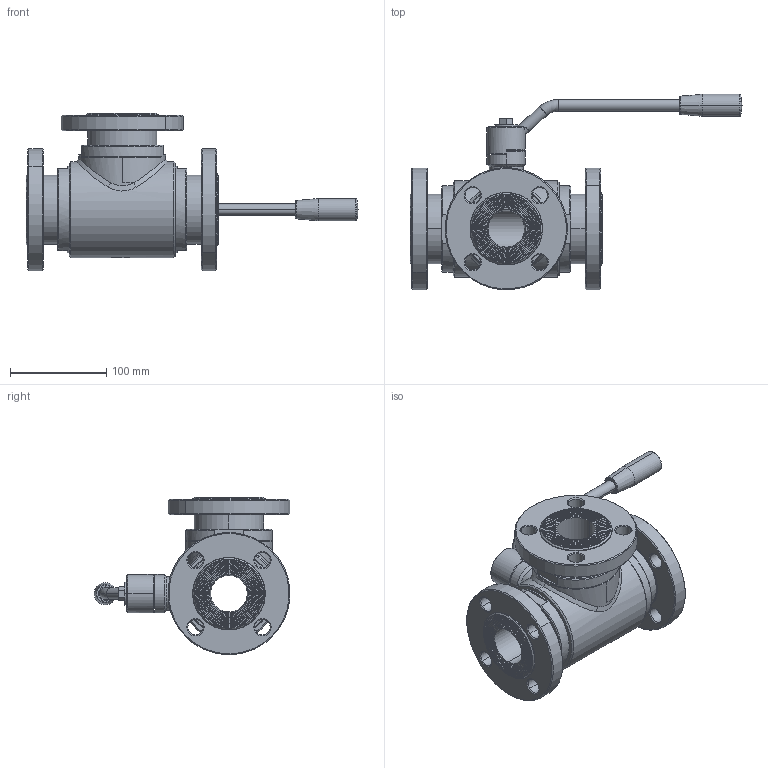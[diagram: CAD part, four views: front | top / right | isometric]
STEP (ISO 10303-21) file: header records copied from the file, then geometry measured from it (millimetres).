
FILE_DESCRIPTION((''),'2;1');
FILE_NAME('30015563410_SW0001','2026-06-25T10:51:45',('tecnico2'),('CDM Tecnoconsulting'),'CREO PARAMETRIC BY PTC INC, 2024063','CREO PARAMETRIC BY PTC INC, 2024063','');
FILE_SCHEMA(('CONFIG_CONTROL_DESIGN','SHAPE_APPEARANCE_LAYERS_GROUPS'));
Products named in the file (1): 30015563410_SW0001
Bounding box: 345 x 203.26 x 163.26 mm (x, y, z)
Volume: 1593399.2 mm3; surface area: 276020.6 mm2
Topology: 1 solids, 1 shells, 1142 faces, 2991 edges, 1907 vertices
Faces by surface type: plane 417, cylinder 255, cone 205, extrusion 110, torus 92, bspline 59, sphere 4
Entity records: 66905 total; most frequent: CARTESIAN_POINT 26289, ORIENTED_EDGE 5946, DIRECTION 5300, PRESENTATION_STYLE_ASSIGNMENT 3630, STYLED_ITEM 3084, CURVE_STYLE 3083, EDGE_CURVE 2973, VERTEX_POINT 1907
